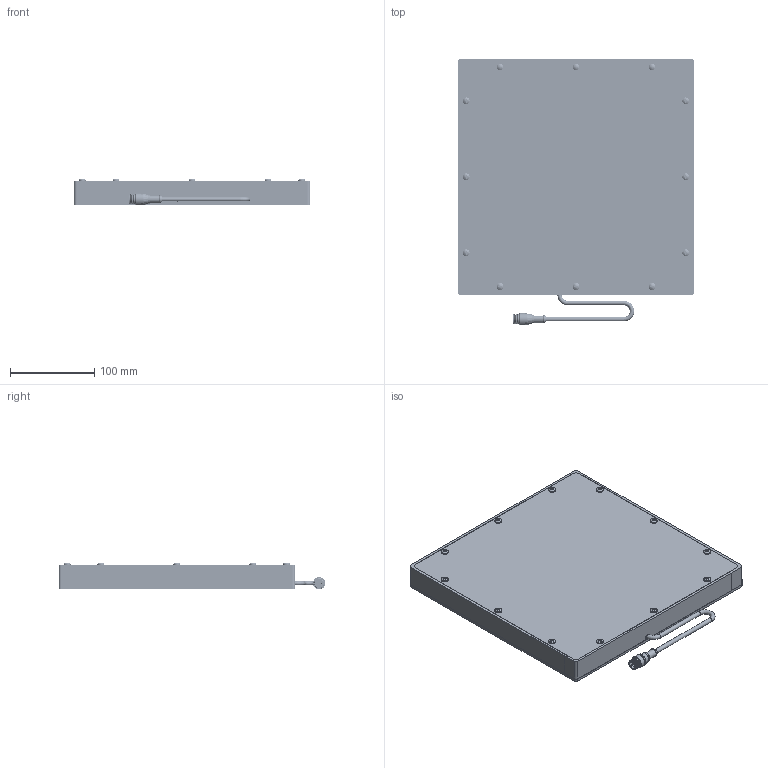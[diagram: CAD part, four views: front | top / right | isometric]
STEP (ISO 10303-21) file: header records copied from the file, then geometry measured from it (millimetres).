
FILE_DESCRIPTION (( 'STEP AP214' ), '1' );
FILE_NAME ('BL240240.STEP', '2026-06-17T02:02:57', ( '' ), ( '' ), 'SwSTEP 2.0', 'SolidWorks 2025', '' );
FILE_SCHEMA (( 'AUTOMOTIVE_DESIGN' ));
Length unit declared in the file: millimetre
Products named in the file (11): MC Pigtail 24_90 then 180 short lead out; SC Pigtail Complete 18_5pin; 120 to 480 x 25mm rails_240mm; 8-32 x .375 Nylon Screw_.375" 94611A192; WD-Xmm x Xmm_240x240; M12 Connector 4,5 and 8 pin_RS4.5T; BL240240; 120 to 480 x 25mm rails_240mm no CG; Backplate Xmm x Xmm_240x240; Hex Standoff .75 x 8-32; 8-32 x 0.5 FHCS (92210A194)_92210A194
Assembly tree (45 placements, depth 3):
  BL240240
    Backplate Xmm x Xmm_240x240
    120 to 480 x 25mm rails_240mm
    120 to 480 x 25mm rails_240mm no CG  x3
    WD-Xmm x Xmm_240x240
    SC Pigtail Complete 18_5pin
      MC Pigtail 24_90 then 180 short lead out
      M12 Connector 4,5 and 8 pin_RS4.5T
    Hex Standoff .75 x 8-32  x12
    8-32 x 0.5 FHCS (92210A194)_92210A194  x12
    8-32 x .375 Nylon Screw_.375" 94611A192  x12
Bounding box: 280 x 315.91 x 31.93 mm (x, y, z)
Volume: 960246.6 mm3; surface area: 447892.3 mm2
Topology: 44 solids, 44 shells, 1284 faces, 3147 edges, 2001 vertices
Faces by surface type: plane 490, bspline 312, cylinder 229, cone 211, torus 25, sphere 17
Full cylindrical faces by diameter (mm): 0.762 x5, 1 x1, 3.454 x12, 4.2 x4, 4.496 x36, 5.207 x3, 6.35 x8, 6.858 x12, 8.128 x12, 8.382 x1, 8.636 x1, 9.119 x12, 10.16 x1, 10.541 x1, 11.938 x1, 13.716 x2, 14.732 x1
Entity records: 13401 total; most frequent: CARTESIAN_POINT 5342, DIRECTION 1458, ORIENTED_EDGE 1202, AXIS2_PLACEMENT_3D 612, EDGE_CURVE 601, EDGE_LOOP 520, VERTEX_POINT 451, FACE_OUTER_BOUND 382
